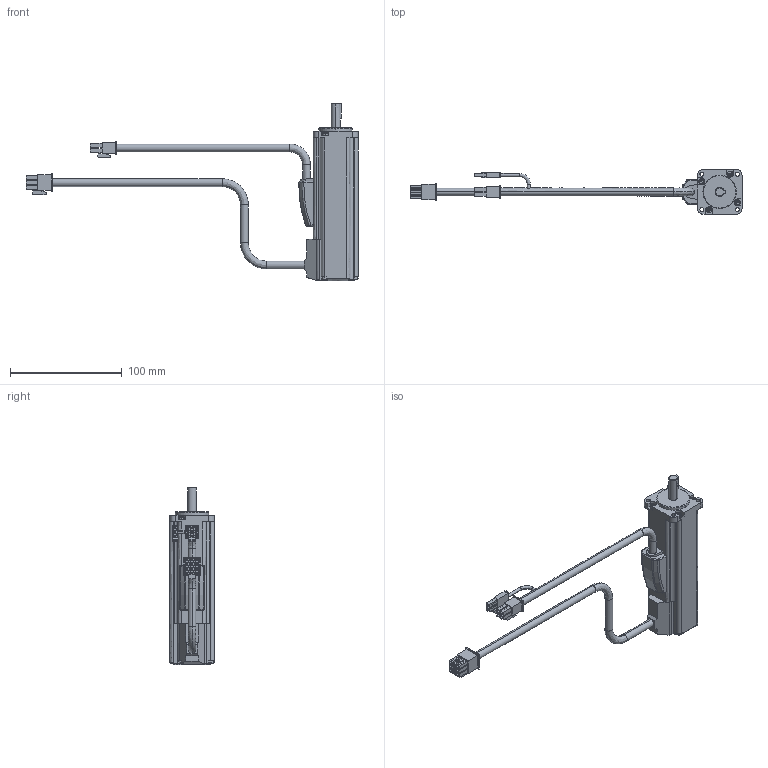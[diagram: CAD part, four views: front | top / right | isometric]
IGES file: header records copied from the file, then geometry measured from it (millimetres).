
Start section:  PTC IGES file: RSMZ-A8BA3xT.igs
Global section: file name: RSMZ-A8BA3xT.igs; native system: Pro/ENGINEER by Parametric Technology Corporation; preprocessor: 2004440; author: Administrator; organization: Unknown; date: 070904.190902; units: millimetre
Bounding box: 297.7 x 40 x 159 mm (x, y, z)
Volume: 225269.5 mm3; surface area: 43036.7 mm2
Topology: 1 solids, 1 shells, 502 faces, 1266 edges, 821 vertices
Faces by surface type: bspline 362, revolution 140
